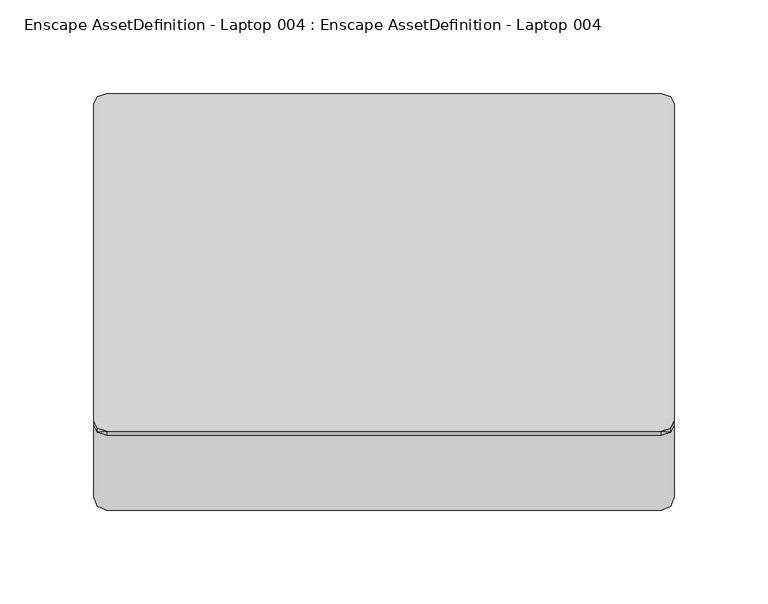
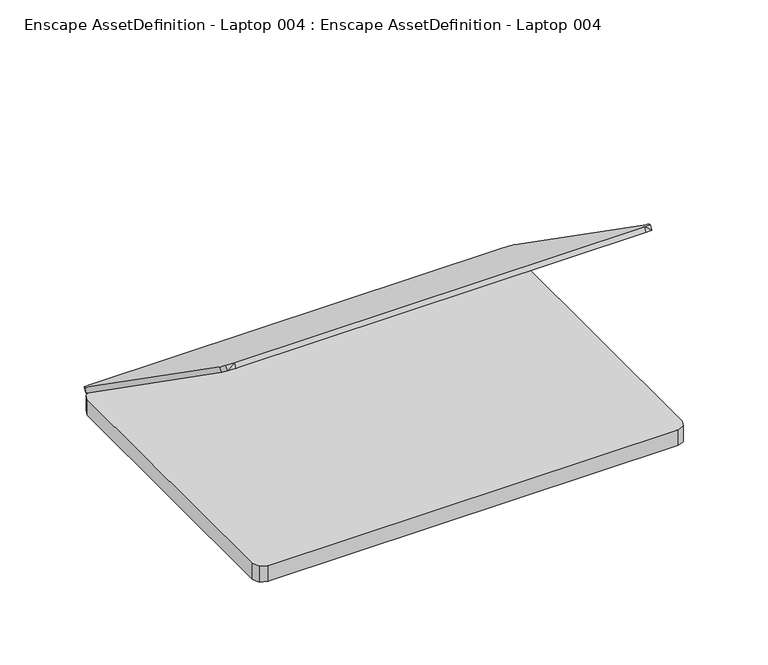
"""IFC4 building model written with IfcOpenShell, lengths in millimetres: geographic element geometry, Enscape AssetDefinition - Laptop 004 : Enscape AssetDefinition - Laptop 004."""

from ifc_helpers import new_model, si_unit, origin, place, context, project, spatial, triangles, source, transform, mapped, element, save


def enscape_assetdefinition_laptop_004_enscape_assetdefinition_8b861ff2(model_context):
    return source(origin(), model_context, "Body", "Tessellation", [
        triangles([(-148.0000051, -110.049996, 0.0), (148.0000051, -110.049996, 11.9000004), (155.0000048, -103.0500054, 11.9000004), (148.0000051, -110.049996, 0.0), (152.9500028, -107.9989947, 0.0), (152.9500028, -107.9989947, 11.9000004), (155.0000048, -103.0500054, 0.0), (155.0000048, 102.9999993, 0.0), (155.0000048, 102.9999993, 11.9000004), (148.0000051, 109.999999, 0.0), (152.9500028, 107.9500061, 11.9000004), (152.9500028, 107.9500061, 0.0), (148.0000051, 109.999999, 11.9000004), (-148.0000051, 109.999999, 11.9000004), (-148.0000051, -110.049996, 11.9000004), (-148.0000051, 109.999999, 0.0), (-155.0000048, 102.9999993, 11.9000004), (-152.9500028, -107.9989947, 11.9000004), (-152.9500028, -107.9989947, 0.0), (-155.0000048, -103.0500054, 11.9000004), (-155.0000048, -103.0500054, 0.0), (-152.9500028, 107.9500061, 11.9000004), (-152.9500028, 107.9500061, 0.0), (-155.0000048, 102.9999993, 0.0), (-148.0000051, -70.1659979, 138.2409896), (152.9500028, -66.3430026, 140.1260036), (148.0000051, 112.2310038, 15.0870004), (-148.0000051, -68.0230055, 141.3020037), (-148.0000051, 112.2310038, 15.0870004), (148.0000051, -68.0230055, 141.3020037), (152.9500028, -68.4870033, 137.0649894), (155.0000048, -64.4320046, 134.2259912), (148.0000051, -70.1659979, 138.2409896), (155.0000048, 106.496997, 19.1019999), (155.0000048, -62.2889986, 137.2870053), (148.0000051, 110.0880024, 12.0249996), (152.9500028, 108.4079995, 13.2009997), (155.0000048, 104.3540046, 16.0399991), (-148.0000051, 110.0880024, 12.0249996), (152.9500028, 110.5520002, 16.2620002), (-152.9500028, 108.4079995, 13.2009997), (-152.9500028, -66.3430026, 140.1260036), (-152.9500028, -68.4870033, 137.0649894), (-155.0000048, -62.2889986, 137.2870053), (-155.0000048, -64.4320046, 134.2259912), (-155.0000048, 104.3540046, 16.0399991), (-152.9500028, 110.5520002, 16.2620002), (-155.0000048, 106.496997, 19.1019999)], [[28, 42, 43], [44, 42, 28], [48, 44, 28], [29, 48, 28], [29, 47, 48], [41, 48, 47], [41, 46, 48], [42, 44, 45], [45, 44, 48], [42, 45, 43], [45, 48, 46], [25, 43, 45], [28, 43, 25], [45, 39, 25], [46, 41, 39], [45, 46, 39], [39, 41, 47], [39, 47, 29], [33, 25, 36], [39, 36, 25], [40, 37, 36], [29, 36, 39], [38, 32, 33], [36, 37, 38], [36, 38, 33], [34, 38, 37], [34, 37, 40], [29, 27, 36], [34, 40, 27], [40, 36, 27], [35, 34, 27], [38, 34, 35], [38, 35, 32], [26, 32, 35], [32, 31, 33], [26, 31, 32], [30, 33, 31], [30, 26, 35], [28, 30, 29], [35, 27, 30], [27, 29, 30], [30, 28, 25], [30, 31, 26], [30, 25, 33], [24, 23, 16], [16, 23, 22], [16, 22, 14], [23, 24, 17], [14, 22, 17], [23, 17, 22], [20, 17, 24], [21, 24, 16], [18, 20, 21], [20, 24, 21], [18, 21, 19], [15, 18, 19], [20, 18, 15], [17, 20, 15], [14, 17, 15], [1, 19, 21], [21, 16, 1], [15, 19, 1], [4, 1, 10], [16, 10, 1], [14, 10, 16], [14, 13, 10], [12, 10, 13], [12, 13, 11], [10, 12, 8], [8, 12, 11], [10, 8, 4], [9, 11, 13], [8, 11, 9], [8, 7, 4], [9, 7, 8], [7, 5, 4], [5, 7, 3], [3, 9, 13], [9, 3, 7], [4, 5, 6], [5, 3, 6], [2, 6, 3], [15, 2, 14], [3, 13, 2], [13, 14, 2], [2, 15, 1], [4, 6, 2], [2, 1, 4]]),
    ])


if __name__ == "__main__":
    model = new_model("IFC4")
    model_context = context("Model", 3, world=origin())
    ifc_project = project(units=[si_unit("LENGTHUNIT", "METRE", prefix="MILLI")], contexts=[model_context])
    site = spatial("IfcSite", under=ifc_project)
    building = spatial("IfcBuilding", under=site)
    placement = place(None, origin())
    enscape_assetdefinition_laptop_004_enscape_assetdefinition_shape = enscape_assetdefinition_laptop_004_enscape_assetdefinition_8b861ff2(model_context)
    element("IfcGeographicElement", 1, ObjectType="Enscape AssetDefinition - Laptop 004 : Enscape AssetDefinition - Laptop 004", at=placement, inside=building, context=model_context, shape_type="MappedRepresentation", body=[
        mapped(enscape_assetdefinition_laptop_004_enscape_assetdefinition_shape, transform((0.0, 0.0, 0.0), x_axis=(1.0, 0.0, 0.0), y_axis=(0.0, 1.0, 0.0), z_axis=(0.0, 0.0, 1.0))),
    ])
    save(model, "model.ifc")
